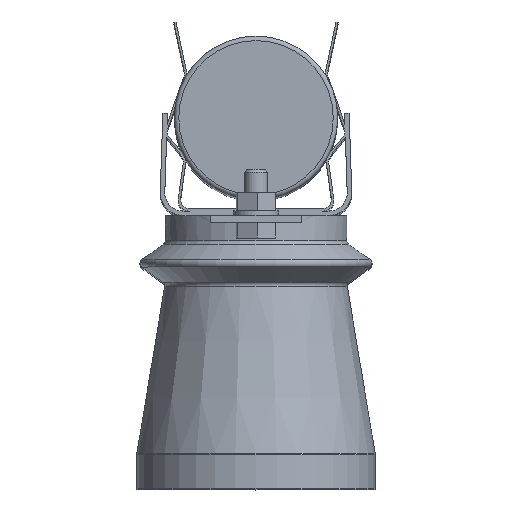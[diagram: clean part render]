
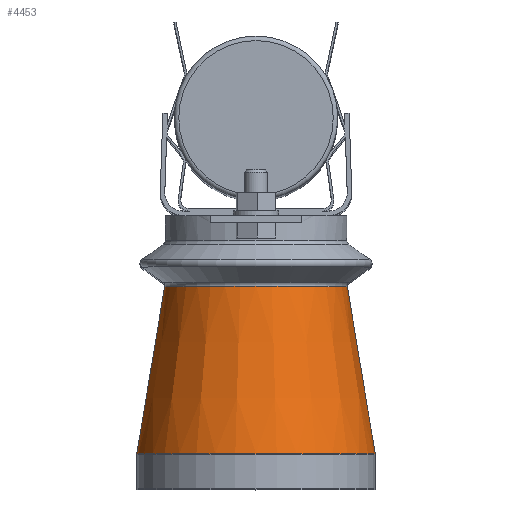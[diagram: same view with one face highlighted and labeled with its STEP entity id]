
A CAD part, top view. The second image highlights one B-rep face of the part: STEP entity #4453.
In plain terms, the highlighted conical face has half-angle 9.462 degrees and reference radius 40 mm.
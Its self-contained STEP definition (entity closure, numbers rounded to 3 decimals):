
#363 = DIRECTION ( 'NONE',  ( 0., -1., 0. ) ) ;
#390 = VERTEX_POINT ( 'NONE', #4648 ) ;
#462 = AXIS2_PLACEMENT_3D ( 'NONE', #3123, #363, #3572 ) ;
#779 = CARTESIAN_POINT ( 'NONE',  ( 0., 90., 192.5 ) ) ;
#953 = CARTESIAN_POINT ( 'NONE',  ( 52.473, 15.163, 192.5 ) ) ;
#1229 = DIRECTION ( 'NONE',  ( -1., 0., 0. ) ) ;
#1593 = DIRECTION ( 'NONE',  ( 0., 1., 0. ) ) ;
#2023 = EDGE_LOOP ( 'NONE', ( #2379 ) ) ;
#2060 = VERTEX_POINT ( 'NONE', #953 ) ;
#2168 = EDGE_CURVE ( 'NONE', #2060, #2060, #2599, .T. ) ;
#2183 = CIRCLE ( 'NONE', #462, 40.204 ) ;
#2325 = CONICAL_SURFACE ( 'NONE', #5496, 40., 0.165 ) ;
#2379 = ORIENTED_EDGE ( 'NONE', *, *, #2168, .T. ) ;
#2567 = ORIENTED_EDGE ( 'NONE', *, *, #4513, .T. ) ;
#2599 = CIRCLE ( 'NONE', #4447, 52.473 ) ;
#2900 = FACE_BOUND ( 'NONE', #3893, .T. ) ;
#3123 = CARTESIAN_POINT ( 'NONE',  ( 0., 88.774, 192.5 ) ) ;
#3572 = DIRECTION ( 'NONE',  ( -1., 0., 0. ) ) ;
#3893 = EDGE_LOOP ( 'NONE', ( #2567 ) ) ;
#4352 = CARTESIAN_POINT ( 'NONE',  ( 0., 15.163, 192.5 ) ) ;
#4447 = AXIS2_PLACEMENT_3D ( 'NONE', #4352, #1593, #4802 ) ;
#4453 = ADVANCED_FACE ( 'NONE', ( #4906, #2900 ), #2325, .T. ) ;
#4513 = EDGE_CURVE ( 'NONE', #390, #390, #2183, .T. ) ;
#4648 = CARTESIAN_POINT ( 'NONE',  ( -40.204, 88.774, 192.5 ) ) ;
#4802 = DIRECTION ( 'NONE',  ( 1., 0., 0. ) ) ;
#4906 = FACE_OUTER_BOUND ( 'NONE', #2023, .T. ) ;
#5496 = AXIS2_PLACEMENT_3D ( 'NONE', #779, #5808, #1229 ) ;
#5808 = DIRECTION ( 'NONE',  ( 0., -1., 0. ) ) ;
